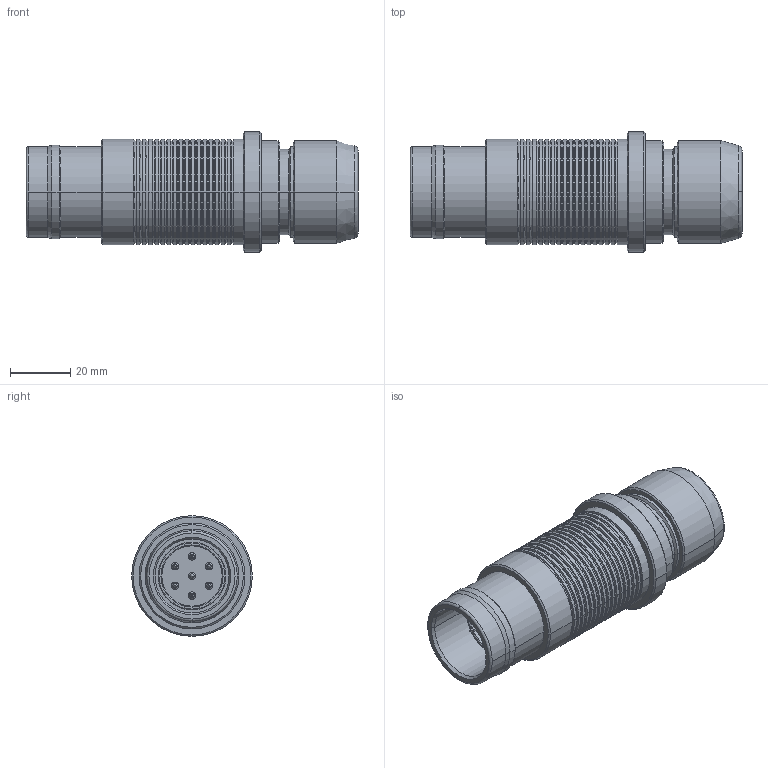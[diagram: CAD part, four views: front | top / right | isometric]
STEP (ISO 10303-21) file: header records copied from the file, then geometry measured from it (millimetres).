
FILE_DESCRIPTION((''),'2;1');
FILE_NAME('N:\Transfer\Berger Martin\Leybold\C13\210328.stp','2005-02-09T11:00:40',('PESO'),(''),'Autodesk Inventor 9','Autodesk Inventor 9','');
FILE_SCHEMA(('AUTOMOTIVE_DESIGN { 1 0 10303 214 1 1 1 1 }'));
Length unit declared in the file: millimetre
Products named in the file (1): 210328
Bounding box: 110 x 40 x 40 mm (x, y, z)
Volume: 68875.5 mm3; surface area: 25776.9 mm2
Topology: 1 solids, 1 shells, 383 faces, 823 edges, 451 vertices
Faces by surface type: cylinder 172, cone 130, plane 39, bspline 28, torus 14
Entity records: 10451 total; most frequent: CARTESIAN_POINT 2106, DIRECTION 1958, ORIENTED_EDGE 1590, AXIS2_PLACEMENT_3D 807, EDGE_CURVE 795, VERTEX_POINT 451, CIRCLE 430, EDGE_LOOP 420
